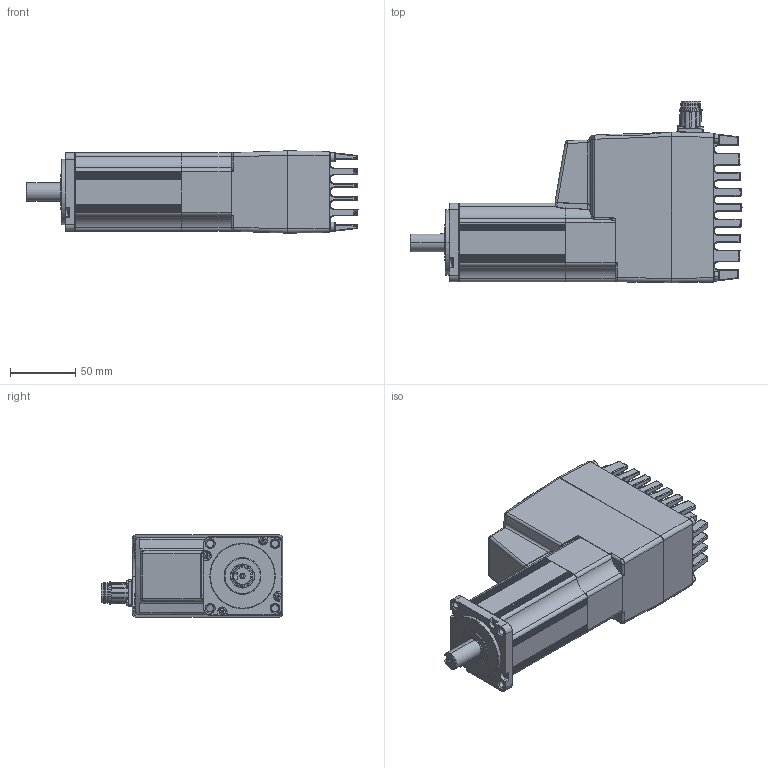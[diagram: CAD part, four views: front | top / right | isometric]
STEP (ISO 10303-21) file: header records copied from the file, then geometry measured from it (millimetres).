
FILE_DESCRIPTION((''),'2;1');
FILE_NAME('STEPPERASSY_ASM','2023-01-23T19:09:29',('Administrator'),(''),'CREO PARAMETRIC BY PTC INC, 2022014','CREO PARAMETRIC BY PTC INC, 2022014','');
FILE_SCHEMA(('AUTOMOTIVE_DESIGN { 1 0 10303 214 1 1 1 1 }'));
Products named in the file (8): NEW_REAR_PART; 402_F; SHAFT_KEY; NEW_CONNECTORS; FINS_BOLT_NEW; 402_BEARING; MAC400_ASM; STEPPERASSY_ASM
Assembly tree (10 placements, depth 3):
  STEPPERASSY_ASM
    MAC400_ASM
      NEW_REAR_PART
      402_F
      SHAFT_KEY
      NEW_CONNECTORS
      FINS_BOLT_NEW  x4
      402_BEARING
Bounding box: 254 x 138.87 x 63 mm (x, y, z)
Volume: 999848.5 mm3; surface area: 147379.8 mm2
Topology: 9 solids, 13 shells, 3225 faces, 8066 edges, 4756 vertices
Faces by surface type: cylinder 1193, plane 913, bspline 488, torus 246, sphere 211, cone 168, extrusion 6
Entity records: 157130 total; most frequent: CARTESIAN_POINT 56364, ORIENTED_EDGE 15458, DIRECTION 13515, PRESENTATION_STYLE_ASSIGNMENT 8227, STYLED_ITEM 7790, CURVE_STYLE 7784, EDGE_CURVE 7729, AXIS2_PLACEMENT_3D 5264
